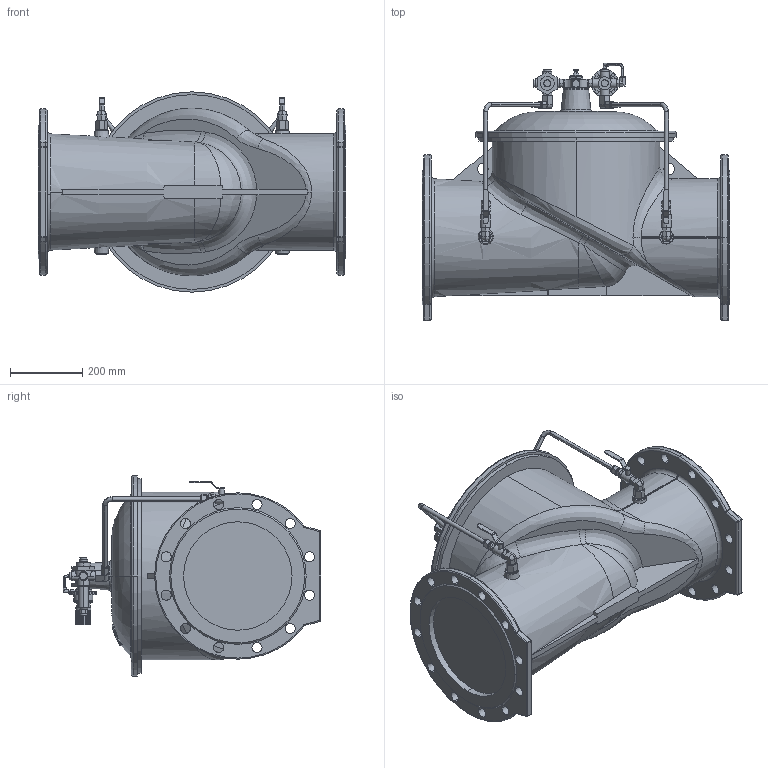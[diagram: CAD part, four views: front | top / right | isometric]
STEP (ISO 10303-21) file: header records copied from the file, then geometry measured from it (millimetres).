
FILE_DESCRIPTION (( 'STEP AP203' ), '1' );
FILE_NAME ('O_859_00_DN300_1XXXX00_REV01.step', '2020-11-17T12:03:04', ( '' ), ( '' ), 'SwSTEP 2.0', 'SolidWorks 2019', '' );
FILE_SCHEMA (( 'CONFIG_CONTROL_DESIGN' ));
Products named in the file (1): O_859_00_DN300_1XXXX00_REV01
Bounding box: 850 x 713.33 x 554 mm (x, y, z)
Volume: 105525854.8 mm3; surface area: 2140683.6 mm2
Topology: 1 solids, 1 shells, 1041 faces, 2614 edges, 1645 vertices
Faces by surface type: plane 534, cylinder 344, cone 68, torus 57, bspline 34, sphere 4
Entity records: 38761 total; most frequent: CARTESIAN_POINT 13906, ORIENTED_EDGE 5212, DIRECTION 5132, EDGE_CURVE 2606, AXIS2_PLACEMENT_3D 1908, VERTEX_POINT 1645, LINE 1316, VECTOR 1316
